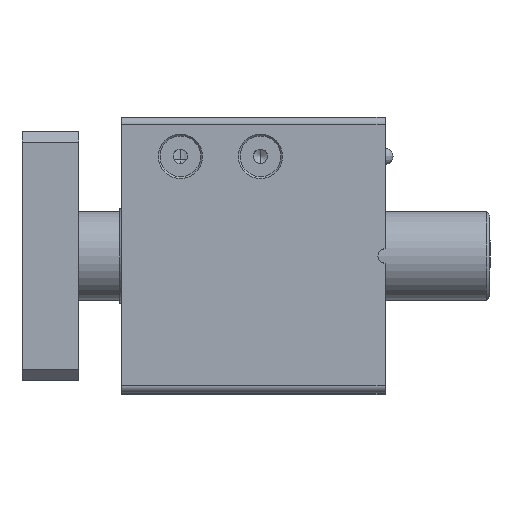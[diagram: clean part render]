
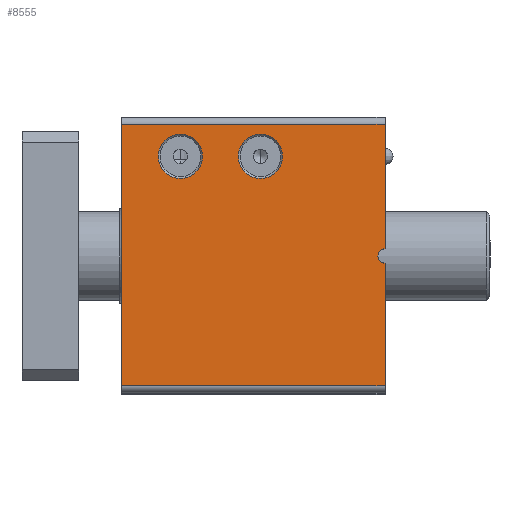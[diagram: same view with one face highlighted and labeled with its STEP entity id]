
A CAD part, front view. The second image highlights one B-rep face of the part: STEP entity #8555.
In plain terms, the highlighted planar face has unit normal (0, -1, 0).
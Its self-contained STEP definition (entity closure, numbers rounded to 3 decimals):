
#1305 = CIRCLE ( 'NONE', #2674, 6.222 ) ;
#1496 = PLANE ( 'NONE',  #10106 ) ;
#1528 = FACE_BOUND ( 'NONE', #16856, .T. ) ;
#2495 = CARTESIAN_POINT ( 'NONE',  ( 50.387, -107.014, 243.795 ) ) ;
#2512 = AXIS2_PLACEMENT_3D ( 'NONE', #24801, #6065, #12520 ) ;
#2583 = DIRECTION ( 'NONE',  ( 0., 0., -1. ) ) ;
#2674 = AXIS2_PLACEMENT_3D ( 'NONE', #20528, #20617, #4043 ) ;
#2780 = VECTOR ( 'NONE', #24772, 1000. ) ;
#3225 = EDGE_CURVE ( 'NONE', #23217, #16944, #10273, .T. ) ;
#3361 = EDGE_CURVE ( 'NONE', #25031, #5768, #18111, .T. ) ;
#3752 = VERTEX_POINT ( 'NONE', #11043 ) ;
#4043 = DIRECTION ( 'NONE',  ( 0., 0., -1. ) ) ;
#4830 = AXIS2_PLACEMENT_3D ( 'NONE', #12250, #11910, #22362 ) ;
#4859 = ORIENTED_EDGE ( 'NONE', *, *, #10982, .T. ) ;
#4906 = DIRECTION ( 'NONE',  ( -1., 0., 0. ) ) ;
#5184 = VERTEX_POINT ( 'NONE', #11464 ) ;
#5323 = DIRECTION ( 'NONE',  ( 0., 0., -1. ) ) ;
#5768 = VERTEX_POINT ( 'NONE', #24551 ) ;
#5872 = EDGE_CURVE ( 'NONE', #18362, #5184, #1305, .T. ) ;
#5876 = VERTEX_POINT ( 'NONE', #14232 ) ;
#6065 = DIRECTION ( 'NONE',  ( 0., 1., 0. ) ) ;
#6205 = CIRCLE ( 'NONE', #9238, 2. ) ;
#6710 = LINE ( 'NONE', #20485, #2780 ) ;
#6764 = EDGE_CURVE ( 'NONE', #10992, #25031, #11970, .T. ) ;
#6782 = CARTESIAN_POINT ( 'NONE',  ( 50.387, -107.014, 245.795 ) ) ;
#7666 = VERTEX_POINT ( 'NONE', #14623 ) ;
#8555 = ADVANCED_FACE ( 'NONE', ( #21402, #1528, #22063 ), #1496, .T. ) ;
#8775 = LINE ( 'NONE', #19292, #12698 ) ;
#8950 = ORIENTED_EDGE ( 'NONE', *, *, #16157, .T. ) ;
#9238 = AXIS2_PLACEMENT_3D ( 'NONE', #19536, #21256, #13156 ) ;
#9403 = CIRCLE ( 'NONE', #2512, 6.222 ) ;
#9433 = VECTOR ( 'NONE', #13881, 1000. ) ;
#9805 = CARTESIAN_POINT ( 'NONE',  ( 50.387, -107.014, 282.795 ) ) ;
#10106 = AXIS2_PLACEMENT_3D ( 'NONE', #22263, #13680, #5323 ) ;
#10273 = CIRCLE ( 'NONE', #4830, 6.222 ) ;
#10330 = ORIENTED_EDGE ( 'NONE', *, *, #3225, .T. ) ;
#10487 = EDGE_CURVE ( 'NONE', #3752, #10992, #19542, .T. ) ;
#10973 = DIRECTION ( 'NONE',  ( -1., 0., 0. ) ) ;
#10982 = EDGE_CURVE ( 'NONE', #5184, #18362, #9403, .T. ) ;
#10992 = VERTEX_POINT ( 'NONE', #9805 ) ;
#11043 = CARTESIAN_POINT ( 'NONE',  ( 50.387, -107.014, 247.795 ) ) ;
#11464 = CARTESIAN_POINT ( 'NONE',  ( 15.387, -107.014, 280.017 ) ) ;
#11613 = ORIENTED_EDGE ( 'NONE', *, *, #3361, .T. ) ;
#11832 = ORIENTED_EDGE ( 'NONE', *, *, #15091, .T. ) ;
#11910 = DIRECTION ( 'NONE',  ( 0., 1., 0. ) ) ;
#11970 = LINE ( 'NONE', #12912, #23722 ) ;
#12250 = CARTESIAN_POINT ( 'NONE',  ( -7.113, -107.014, 273.795 ) ) ;
#12351 = DIRECTION ( 'NONE',  ( 0., 0., -1. ) ) ;
#12520 = DIRECTION ( 'NONE',  ( 0., 0., -1. ) ) ;
#12578 = VECTOR ( 'NONE', #2583, 1000. ) ;
#12694 = CARTESIAN_POINT ( 'NONE',  ( -23.613, -107.014, 206.795 ) ) ;
#12698 = VECTOR ( 'NONE', #21089, 1000. ) ;
#12912 = CARTESIAN_POINT ( 'NONE',  ( -23.613, -107.014, 282.795 ) ) ;
#13035 = CIRCLE ( 'NONE', #17521, 2. ) ;
#13079 = VERTEX_POINT ( 'NONE', #2495 ) ;
#13126 = EDGE_CURVE ( 'NONE', #5876, #3752, #6205, .T. ) ;
#13156 = DIRECTION ( 'NONE',  ( -1., 0., 0. ) ) ;
#13621 = ORIENTED_EDGE ( 'NONE', *, *, #10487, .T. ) ;
#13680 = DIRECTION ( 'NONE',  ( 0., -1., 0. ) ) ;
#13881 = DIRECTION ( 'NONE',  ( 0., 0., 1. ) ) ;
#14232 = CARTESIAN_POINT ( 'NONE',  ( 48.387, -107.014, 245.795 ) ) ;
#14623 = CARTESIAN_POINT ( 'NONE',  ( 50.387, -107.014, 209.295 ) ) ;
#15091 = EDGE_CURVE ( 'NONE', #16944, #23217, #24317, .T. ) ;
#16157 = EDGE_CURVE ( 'NONE', #13079, #5876, #13035, .T. ) ;
#16500 = CARTESIAN_POINT ( 'NONE',  ( -7.113, -107.014, 273.795 ) ) ;
#16856 = EDGE_LOOP ( 'NONE', ( #18855, #4859 ) ) ;
#16944 = VERTEX_POINT ( 'NONE', #26822 ) ;
#17115 = CARTESIAN_POINT ( 'NONE',  ( -7.113, -107.014, 280.017 ) ) ;
#17521 = AXIS2_PLACEMENT_3D ( 'NONE', #6782, #21327, #10973 ) ;
#18111 = LINE ( 'NONE', #12694, #12578 ) ;
#18362 = VERTEX_POINT ( 'NONE', #26548 ) ;
#18855 = ORIENTED_EDGE ( 'NONE', *, *, #5872, .T. ) ;
#19093 = EDGE_CURVE ( 'NONE', #7666, #13079, #6710, .T. ) ;
#19292 = CARTESIAN_POINT ( 'NONE',  ( -23.613, -107.014, 209.295 ) ) ;
#19535 = ORIENTED_EDGE ( 'NONE', *, *, #6764, .T. ) ;
#19536 = CARTESIAN_POINT ( 'NONE',  ( 50.387, -107.014, 245.795 ) ) ;
#19542 = LINE ( 'NONE', #24277, #9433 ) ;
#20485 = CARTESIAN_POINT ( 'NONE',  ( 50.387, -107.014, 206.795 ) ) ;
#20528 = CARTESIAN_POINT ( 'NONE',  ( 15.387, -107.014, 273.795 ) ) ;
#20569 = ORIENTED_EDGE ( 'NONE', *, *, #25933, .F. ) ;
#20617 = DIRECTION ( 'NONE',  ( 0., 1., 0. ) ) ;
#20664 = ORIENTED_EDGE ( 'NONE', *, *, #13126, .T. ) ;
#21089 = DIRECTION ( 'NONE',  ( -1., 0., 0. ) ) ;
#21256 = DIRECTION ( 'NONE',  ( 0., 1., 0. ) ) ;
#21327 = DIRECTION ( 'NONE',  ( 0., 1., 0. ) ) ;
#21402 = FACE_BOUND ( 'NONE', #23213, .T. ) ;
#22063 = FACE_OUTER_BOUND ( 'NONE', #24102, .T. ) ;
#22263 = CARTESIAN_POINT ( 'NONE',  ( -23.613, -107.014, 206.795 ) ) ;
#22362 = DIRECTION ( 'NONE',  ( 0., 0., -1. ) ) ;
#22527 = CARTESIAN_POINT ( 'NONE',  ( -23.613, -107.014, 282.795 ) ) ;
#22792 = DIRECTION ( 'NONE',  ( 0., 1., 0. ) ) ;
#23213 = EDGE_LOOP ( 'NONE', ( #11832, #10330 ) ) ;
#23217 = VERTEX_POINT ( 'NONE', #17115 ) ;
#23722 = VECTOR ( 'NONE', #4906, 1000. ) ;
#24102 = EDGE_LOOP ( 'NONE', ( #20569, #25865, #8950, #20664, #13621, #19535, #11613 ) ) ;
#24226 = AXIS2_PLACEMENT_3D ( 'NONE', #16500, #22792, #12351 ) ;
#24277 = CARTESIAN_POINT ( 'NONE',  ( 50.387, -107.014, 206.795 ) ) ;
#24317 = CIRCLE ( 'NONE', #24226, 6.222 ) ;
#24551 = CARTESIAN_POINT ( 'NONE',  ( -23.613, -107.014, 209.295 ) ) ;
#24772 = DIRECTION ( 'NONE',  ( 0., 0., 1. ) ) ;
#24801 = CARTESIAN_POINT ( 'NONE',  ( 15.387, -107.014, 273.795 ) ) ;
#25031 = VERTEX_POINT ( 'NONE', #22527 ) ;
#25865 = ORIENTED_EDGE ( 'NONE', *, *, #19093, .T. ) ;
#25933 = EDGE_CURVE ( 'NONE', #7666, #5768, #8775, .T. ) ;
#26548 = CARTESIAN_POINT ( 'NONE',  ( 15.387, -107.014, 267.572 ) ) ;
#26822 = CARTESIAN_POINT ( 'NONE',  ( -7.113, -107.014, 267.572 ) ) ;
